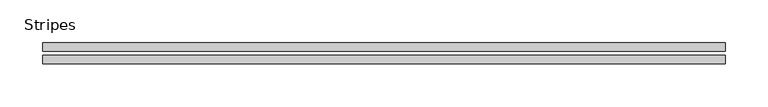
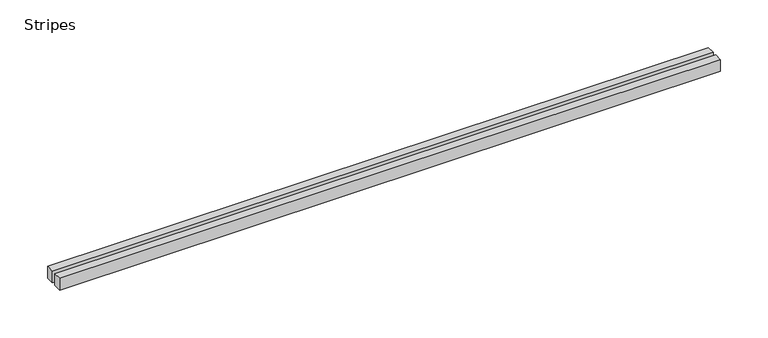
"""IFC4 building model written with IfcOpenShell, lengths in millimetres: sanitary terminal geometry, ZZZ_do not use_PF_ST_grating for showerdrain s_Aco : Stripes."""

from ifc_helpers import new_model, si_unit, frame, origin, place, context, project, spatial, polyline, outline, extrude, source, transform, mapped, element, save


def stripes_f10ac989(model_context):
    return source(origin(), model_context, "Body", "SweptSolid", [
        extrude(outline(polyline([(400.0, 12.5), (400.0, 2.5), (-400.0, 2.5), (-400.0, 12.5), (400.0, 12.5)])), frame((0.0, 0.0, -15.0), z_axis=(0.0, 0.0, 1.0), x_axis=(1.0, 0.0, 0.0)), (0.0, 0.0, 1.0), 15.0),
        extrude(outline(polyline([(400.0, -2.5), (400.0, -12.5), (-400.0, -12.5), (-400.0, -2.5), (400.0, -2.5)])), frame((0.0, 0.0, -15.0), z_axis=(0.0, 0.0, 1.0), x_axis=(1.0, 0.0, 0.0)), (0.0, 0.0, 1.0), 15.0),
    ])


if __name__ == "__main__":
    model = new_model("IFC4")
    model_context = context("Model", 3, world=origin())
    ifc_project = project(units=[si_unit("LENGTHUNIT", "METRE", prefix="MILLI")], contexts=[model_context])
    site = spatial("IfcSite", under=ifc_project)
    building = spatial("IfcBuilding", under=site)
    placement = place(None, origin())
    stripes_shape = stripes_f10ac989(model_context)
    element("IfcSanitaryTerminal", 1, ObjectType="ZZZ_do not use_PF_ST_grating for showerdrain s_Aco : Stripes", at=placement, inside=building, context=model_context, shape_type="MappedRepresentation", body=[
        mapped(stripes_shape, transform((0.0, 0.0, 0.0), x_axis=(1.0, 0.0, 0.0), y_axis=(0.0, 1.0, 0.0), z_axis=(0.0, 0.0, 1.0))),
    ])
    save(model, "model.ifc")
